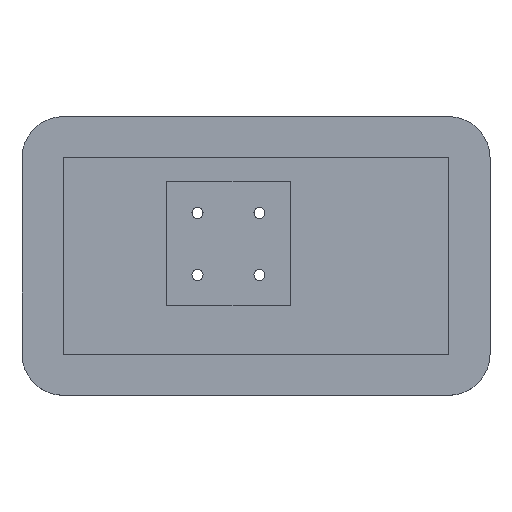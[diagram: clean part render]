
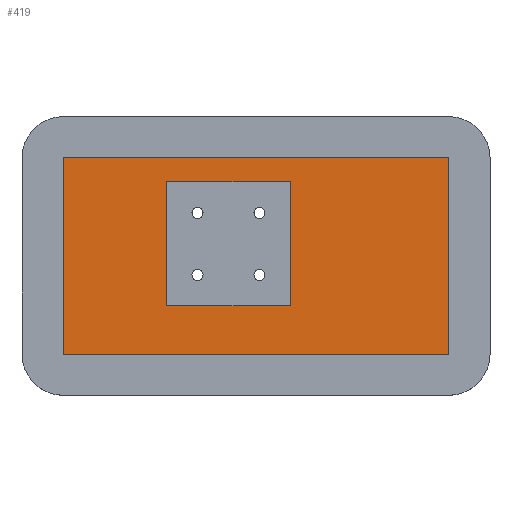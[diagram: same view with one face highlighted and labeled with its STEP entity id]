
A CAD part, top view. The second image highlights one B-rep face of the part: STEP entity #419.
In plain terms, the highlighted planar face has unit normal (0, 0, 1).
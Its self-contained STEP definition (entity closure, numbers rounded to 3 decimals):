
#328 = VERTEX_POINT('',#329);
#329 = CARTESIAN_POINT('',(32.,-36.,2.2));
#335 = EDGE_CURVE('',#336,#328,#338,.T.);
#336 = VERTEX_POINT('',#337);
#337 = CARTESIAN_POINT('',(-24.,-36.,2.2));
#338 = LINE('',#339,#340);
#339 = CARTESIAN_POINT('',(-24.,-36.,2.2));
#340 = VECTOR('',#341,1.);
#341 = DIRECTION('',(1.,0.,-0.));
#359 = EDGE_CURVE('',#328,#360,#362,.T.);
#360 = VERTEX_POINT('',#361);
#361 = CARTESIAN_POINT('',(32.,-7.5,2.2));
#362 = LINE('',#363,#364);
#363 = CARTESIAN_POINT('',(32.,-36.,2.2));
#364 = VECTOR('',#365,1.);
#365 = DIRECTION('',(-0.,1.,0.));
#383 = EDGE_CURVE('',#384,#360,#386,.T.);
#384 = VERTEX_POINT('',#385);
#385 = CARTESIAN_POINT('',(-24.,-7.5,2.2));
#386 = LINE('',#387,#388);
#387 = CARTESIAN_POINT('',(-24.,-7.5,2.2));
#388 = VECTOR('',#389,1.);
#389 = DIRECTION('',(1.,0.,-0.));
#407 = EDGE_CURVE('',#336,#384,#408,.T.);
#408 = LINE('',#409,#410);
#409 = CARTESIAN_POINT('',(-24.,-36.,2.2));
#410 = VECTOR('',#411,1.);
#411 = DIRECTION('',(-0.,1.,0.));
#419 = ADVANCED_FACE('',(#420,#426),#460,.T.);
#420 = FACE_BOUND('',#421,.T.);
#421 = EDGE_LOOP('',(#422,#423,#424,#425));
#422 = ORIENTED_EDGE('',*,*,#407,.F.);
#423 = ORIENTED_EDGE('',*,*,#335,.T.);
#424 = ORIENTED_EDGE('',*,*,#359,.T.);
#425 = ORIENTED_EDGE('',*,*,#383,.F.);
#426 = FACE_BOUND('',#427,.T.);
#427 = EDGE_LOOP('',(#428,#438,#446,#454));
#428 = ORIENTED_EDGE('',*,*,#429,.T.);
#429 = EDGE_CURVE('',#430,#432,#434,.T.);
#430 = VERTEX_POINT('',#431);
#431 = CARTESIAN_POINT('',(9.,-29.,2.2));
#432 = VERTEX_POINT('',#433);
#433 = CARTESIAN_POINT('',(-9.,-29.,2.2));
#434 = LINE('',#435,#436);
#435 = CARTESIAN_POINT('',(-16.5,-29.,2.2));
#436 = VECTOR('',#437,1.);
#437 = DIRECTION('',(-1.,-0.,0.));
#438 = ORIENTED_EDGE('',*,*,#439,.T.);
#439 = EDGE_CURVE('',#432,#440,#442,.T.);
#440 = VERTEX_POINT('',#441);
#441 = CARTESIAN_POINT('',(-9.,-11.,2.2));
#442 = LINE('',#443,#444);
#443 = CARTESIAN_POINT('',(-9.,-32.5,2.2));
#444 = VECTOR('',#445,1.);
#445 = DIRECTION('',(-0.,1.,0.));
#446 = ORIENTED_EDGE('',*,*,#447,.F.);
#447 = EDGE_CURVE('',#448,#440,#450,.T.);
#448 = VERTEX_POINT('',#449);
#449 = CARTESIAN_POINT('',(9.,-11.,2.2));
#450 = LINE('',#451,#452);
#451 = CARTESIAN_POINT('',(-16.5,-11.,2.2));
#452 = VECTOR('',#453,1.);
#453 = DIRECTION('',(-1.,-0.,0.));
#454 = ORIENTED_EDGE('',*,*,#455,.F.);
#455 = EDGE_CURVE('',#430,#448,#456,.T.);
#456 = LINE('',#457,#458);
#457 = CARTESIAN_POINT('',(9.,-32.5,2.2));
#458 = VECTOR('',#459,1.);
#459 = DIRECTION('',(-0.,1.,0.));
#460 = PLANE('',#461);
#461 = AXIS2_PLACEMENT_3D('',#462,#463,#464);
#462 = CARTESIAN_POINT('',(-24.,-36.,2.2));
#463 = DIRECTION('',(0.,0.,1.));
#464 = DIRECTION('',(1.,0.,-0.));
